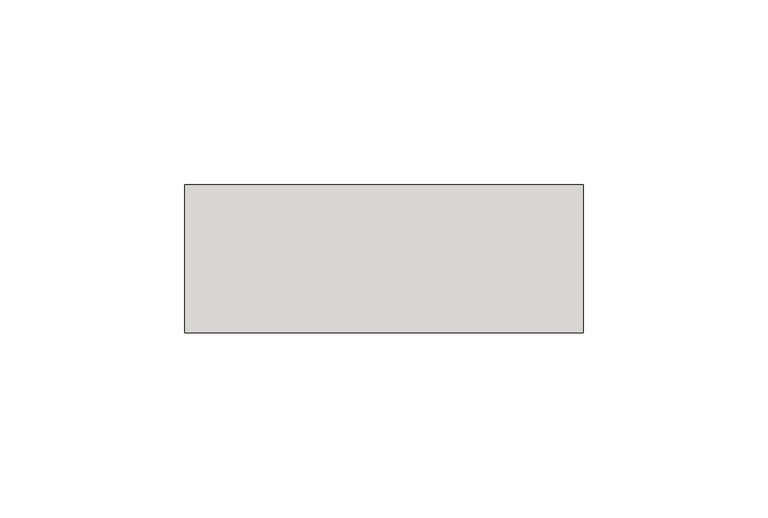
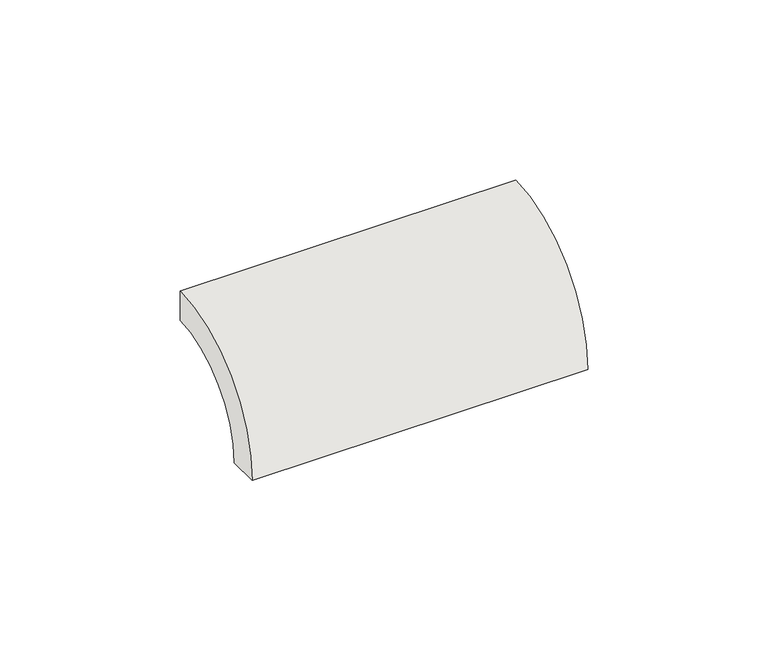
"""IFC4 building model written with IfcOpenShell, lengths in millimetres: slab geometry, ROSA GRES_183 : Pieza 183_Serena_Ocra_Anti-Slip."""

from ifc_helpers import new_model, si_unit, point, frame, frame_2d, origin, origin_2d, place, context, project, spatial, polyline, circle_curve, trimmed, segment, composite_curve, outline, extrude, source, transform, mapped, element, save


def slab_dac9c108(model_context):
    return source(origin(), model_context, "Body", "SweptSolid", [
        extrude(outline(composite_curve([segment(polyline([(0.0, 40.0), (0.0, 30.0265886)]), True, "CONTINUOUS"), segment(trimmed(circle_curve(frame_2d((-0.0044453, 0.0044453)), 30.0221435), [point((0.0, 30.0265886))], [point((-30.0265886, 0.0))], True, "CARTESIAN"), True, "CONTINUOUS"), segment(polyline([(-30.0265886, 0.0), (-40.0, 0.0)]), True, "CONTINUOUS"), segment(trimmed(circle_curve(origin_2d(), 40.0), [point((-40.0, 0.0))], [point((0.0, 40.0))], False, "CARTESIAN"), True, "CONTINUOUS")], self_intersect=False)), frame((0.0, 0.0, 0.0), z_axis=(1.0, 0.0, 0.0), x_axis=(0.0, 1.0, 0.0)), (0.0, 0.0, 1.0), 107.5842026),
    ])


if __name__ == "__main__":
    model = new_model("IFC4")
    model_context = context("Model", 3, world=origin())
    ifc_project = project(units=[si_unit("LENGTHUNIT", "METRE", prefix="MILLI")], contexts=[model_context])
    site = spatial("IfcSite", under=ifc_project)
    building = spatial("IfcBuilding", under=site)
    placement = place(None, origin())
    slab_shape = slab_dac9c108(model_context)
    element("IfcSlab", 1, ObjectType="ROSA GRES_183 : Pieza 183_Serena_Ocra_Anti-Slip", at=placement, inside=building, context=model_context, shape_type="MappedRepresentation", body=[
        mapped(slab_shape, transform((0.0, 0.0, 0.0), x_axis=(1.0, 0.0, 0.0), y_axis=(0.0, 1.0, 0.0), z_axis=(0.0, 0.0, 1.0))),
    ])
    save(model, "model.ifc")
